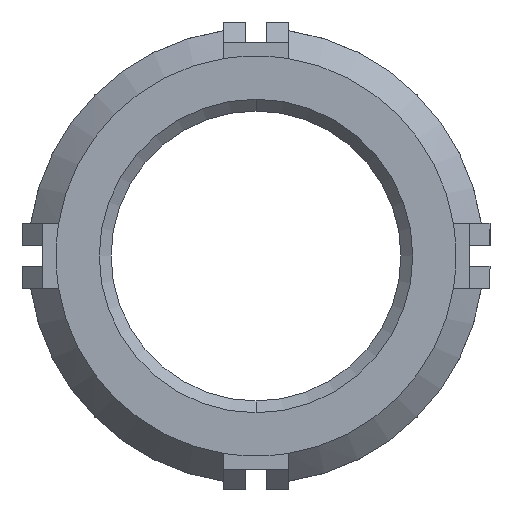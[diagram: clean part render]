
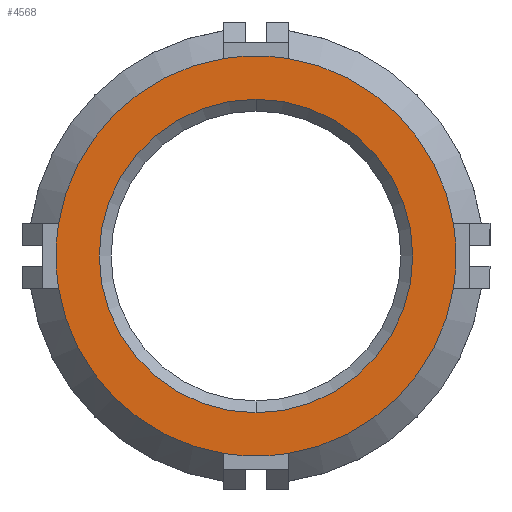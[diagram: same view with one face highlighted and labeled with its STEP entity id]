
A CAD part, front view. The second image highlights one B-rep face of the part: STEP entity #4568.
In plain terms, the highlighted planar face has unit normal (0, -1, 0).
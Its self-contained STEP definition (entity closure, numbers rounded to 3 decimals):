
#120 = CARTESIAN_POINT ( 'NONE',  ( 0., -31.75, 0. ) ) ;
#166 = ORIENTED_EDGE ( 'NONE', *, *, #1889, .T. ) ;
#189 = EDGE_CURVE ( 'NONE', #371, #1306, #6182, .T. ) ;
#243 = AXIS2_PLACEMENT_3D ( 'NONE', #6199, #6729, #4391 ) ;
#317 = ORIENTED_EDGE ( 'NONE', *, *, #5476, .T. ) ;
#326 = DIRECTION ( 'NONE',  ( 1., 0., 0. ) ) ;
#371 = VERTEX_POINT ( 'NONE', #4930 ) ;
#437 = CIRCLE ( 'NONE', #4863, 15.345 ) ;
#518 = ORIENTED_EDGE ( 'NONE', *, *, #5570, .T. ) ;
#625 = AXIS2_PLACEMENT_3D ( 'NONE', #2086, #3236, #7361 ) ;
#728 = DIRECTION ( 'NONE',  ( 0., 1., 0. ) ) ;
#782 = CARTESIAN_POINT ( 'NONE',  ( 0., -31.75, 0. ) ) ;
#813 = DIRECTION ( 'NONE',  ( 0., 0., 1. ) ) ;
#853 = AXIS2_PLACEMENT_3D ( 'NONE', #120, #6471, #1275 ) ;
#976 = EDGE_LOOP ( 'NONE', ( #518, #6610 ) ) ;
#1016 = CARTESIAN_POINT ( 'NONE',  ( 15.14, -31.75, -2.5 ) ) ;
#1124 = DIRECTION ( 'NONE',  ( 0., 0., 1. ) ) ;
#1212 = EDGE_CURVE ( 'NONE', #5270, #1334, #5890, .T. ) ;
#1275 = DIRECTION ( 'NONE',  ( 0., 0., 1. ) ) ;
#1306 = VERTEX_POINT ( 'NONE', #3654 ) ;
#1334 = VERTEX_POINT ( 'NONE', #4789 ) ;
#1349 = AXIS2_PLACEMENT_3D ( 'NONE', #4018, #728, #813 ) ;
#1479 = DIRECTION ( 'NONE',  ( 0., 0., 1. ) ) ;
#1569 = AXIS2_PLACEMENT_3D ( 'NONE', #7241, #5529, #326 ) ;
#1700 = CARTESIAN_POINT ( 'NONE',  ( 0., -31.75, 0. ) ) ;
#1730 = ORIENTED_EDGE ( 'NONE', *, *, #1212, .T. ) ;
#1889 = EDGE_CURVE ( 'NONE', #4738, #7362, #3692, .T. ) ;
#1925 = DIRECTION ( 'NONE',  ( 0., 0., 1. ) ) ;
#2086 = CARTESIAN_POINT ( 'NONE',  ( 0., -31.75, 0. ) ) ;
#2176 = DIRECTION ( 'NONE',  ( -1., 0., 0. ) ) ;
#2222 = ORIENTED_EDGE ( 'NONE', *, *, #3571, .T. ) ;
#2252 = DIRECTION ( 'NONE',  ( 0., 1., 0. ) ) ;
#2464 = VERTEX_POINT ( 'NONE', #6217 ) ;
#2523 = EDGE_CURVE ( 'NONE', #3563, #5841, #6887, .T. ) ;
#2562 = EDGE_LOOP ( 'NONE', ( #7137, #1730, #6694, #166, #2222, #5155, #2997, #317 ) ) ;
#2571 = DIRECTION ( 'NONE',  ( 0., -1., 0. ) ) ;
#2590 = CARTESIAN_POINT ( 'NONE',  ( 0., -31.75, 0. ) ) ;
#2660 = CIRCLE ( 'NONE', #4282, 15.345 ) ;
#2755 = CIRCLE ( 'NONE', #4372, 15.345 ) ;
#2809 = AXIS2_PLACEMENT_3D ( 'NONE', #1700, #2252, #1124 ) ;
#2874 = CARTESIAN_POINT ( 'NONE',  ( 0., -31.75, 0. ) ) ;
#2997 = ORIENTED_EDGE ( 'NONE', *, *, #189, .T. ) ;
#3161 = CARTESIAN_POINT ( 'NONE',  ( 0., -31.75, 0. ) ) ;
#3162 = EDGE_CURVE ( 'NONE', #2464, #371, #5884, .T. ) ;
#3210 = DIRECTION ( 'NONE',  ( 0., -1., 0. ) ) ;
#3236 = DIRECTION ( 'NONE',  ( 0., -1., 0. ) ) ;
#3283 = EDGE_CURVE ( 'NONE', #1334, #4738, #437, .T. ) ;
#3329 = CARTESIAN_POINT ( 'NONE',  ( 2.5, -31.75, -15.14 ) ) ;
#3563 = VERTEX_POINT ( 'NONE', #4331 ) ;
#3571 = EDGE_CURVE ( 'NONE', #7362, #2464, #6969, .T. ) ;
#3654 = CARTESIAN_POINT ( 'NONE',  ( -2.5, -31.75, 15.14 ) ) ;
#3683 = AXIS2_PLACEMENT_3D ( 'NONE', #4978, #2571, #6650 ) ;
#3692 = CIRCLE ( 'NONE', #625, 15.345 ) ;
#3737 = DIRECTION ( 'NONE',  ( 0., 0., -1. ) ) ;
#3848 = PLANE ( 'NONE',  #243 ) ;
#4018 = CARTESIAN_POINT ( 'NONE',  ( 0., -31.75, 0. ) ) ;
#4282 = AXIS2_PLACEMENT_3D ( 'NONE', #782, #5464, #1925 ) ;
#4319 = FACE_BOUND ( 'NONE', #976, .T. ) ;
#4331 = CARTESIAN_POINT ( 'NONE',  ( 0., -31.75, 12.02 ) ) ;
#4372 = AXIS2_PLACEMENT_3D ( 'NONE', #3161, #3210, #1479 ) ;
#4380 = DIRECTION ( 'NONE',  ( 0., -1., 0. ) ) ;
#4391 = DIRECTION ( 'NONE',  ( 0., 0., 1. ) ) ;
#4568 = ADVANCED_FACE ( 'NONE', ( #4319, #5146 ), #3848, .F. ) ;
#4738 = VERTEX_POINT ( 'NONE', #3329 ) ;
#4789 = CARTESIAN_POINT ( 'NONE',  ( -2.5, -31.75, -15.14 ) ) ;
#4863 = AXIS2_PLACEMENT_3D ( 'NONE', #2874, #5128, #2176 ) ;
#4930 = CARTESIAN_POINT ( 'NONE',  ( 2.5, -31.75, 15.14 ) ) ;
#4953 = CIRCLE ( 'NONE', #1349, 12.02 ) ;
#4978 = CARTESIAN_POINT ( 'NONE',  ( 0., -31.75, 0. ) ) ;
#5128 = DIRECTION ( 'NONE',  ( 0., -1., 0. ) ) ;
#5146 = FACE_OUTER_BOUND ( 'NONE', #2562, .T. ) ;
#5155 = ORIENTED_EDGE ( 'NONE', *, *, #3162, .T. ) ;
#5270 = VERTEX_POINT ( 'NONE', #6461 ) ;
#5464 = DIRECTION ( 'NONE',  ( 0., -1., 0. ) ) ;
#5476 = EDGE_CURVE ( 'NONE', #1306, #6562, #2755, .T. ) ;
#5529 = DIRECTION ( 'NONE',  ( 0., -1., 0. ) ) ;
#5570 = EDGE_CURVE ( 'NONE', #5841, #3563, #4953, .T. ) ;
#5600 = CARTESIAN_POINT ( 'NONE',  ( 0., -31.75, -12.02 ) ) ;
#5781 = CARTESIAN_POINT ( 'NONE',  ( -15.14, -31.75, 2.5 ) ) ;
#5841 = VERTEX_POINT ( 'NONE', #5600 ) ;
#5884 = CIRCLE ( 'NONE', #3683, 15.345 ) ;
#5890 = CIRCLE ( 'NONE', #853, 15.345 ) ;
#6182 = CIRCLE ( 'NONE', #1569, 15.345 ) ;
#6192 = EDGE_CURVE ( 'NONE', #6562, #5270, #2660, .T. ) ;
#6199 = CARTESIAN_POINT ( 'NONE',  ( 0., -31.75, 0. ) ) ;
#6217 = CARTESIAN_POINT ( 'NONE',  ( 15.14, -31.75, 2.5 ) ) ;
#6283 = AXIS2_PLACEMENT_3D ( 'NONE', #2590, #4380, #3737 ) ;
#6461 = CARTESIAN_POINT ( 'NONE',  ( -15.14, -31.75, -2.5 ) ) ;
#6471 = DIRECTION ( 'NONE',  ( 0., -1., 0. ) ) ;
#6562 = VERTEX_POINT ( 'NONE', #5781 ) ;
#6610 = ORIENTED_EDGE ( 'NONE', *, *, #2523, .T. ) ;
#6650 = DIRECTION ( 'NONE',  ( 0., 0., 1. ) ) ;
#6694 = ORIENTED_EDGE ( 'NONE', *, *, #3283, .T. ) ;
#6729 = DIRECTION ( 'NONE',  ( 0., 1., 0. ) ) ;
#6887 = CIRCLE ( 'NONE', #2809, 12.02 ) ;
#6969 = CIRCLE ( 'NONE', #6283, 15.345 ) ;
#7137 = ORIENTED_EDGE ( 'NONE', *, *, #6192, .T. ) ;
#7241 = CARTESIAN_POINT ( 'NONE',  ( 0., -31.75, 0. ) ) ;
#7361 = DIRECTION ( 'NONE',  ( 0., 0., 1. ) ) ;
#7362 = VERTEX_POINT ( 'NONE', #1016 ) ;
